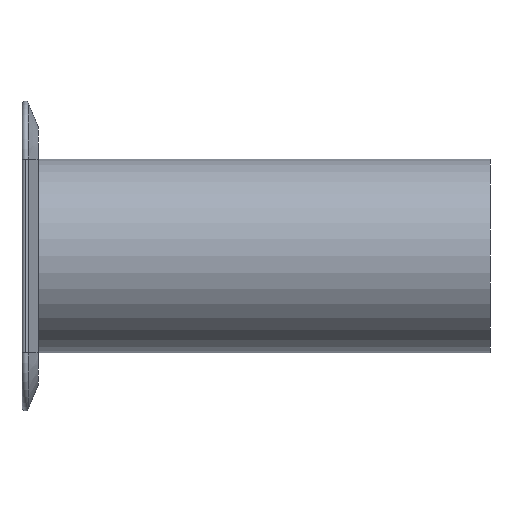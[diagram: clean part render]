
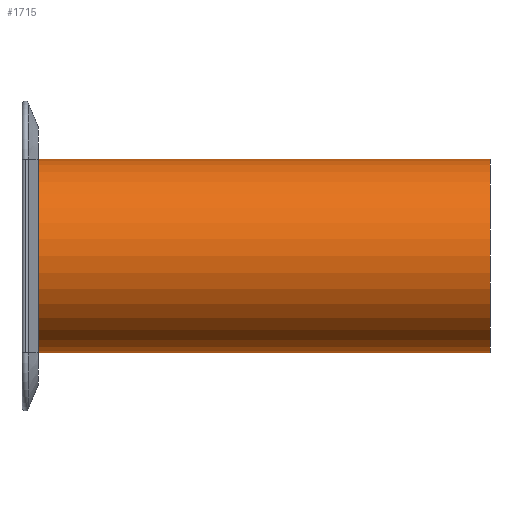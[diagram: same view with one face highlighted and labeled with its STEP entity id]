
A CAD part, left-side view. The second image highlights one B-rep face of the part: STEP entity #1715.
In plain terms, the highlighted cylindrical face has radius 15 mm (diameter 30 mm), a partial arc.
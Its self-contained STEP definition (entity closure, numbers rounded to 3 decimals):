
#88 = CIRCLE ( 'NONE', #2010, 15. ) ;
#138 = CARTESIAN_POINT ( 'NONE',  ( 0., 0., 0. ) ) ;
#155 = DIRECTION ( 'NONE',  ( 0., 1., 0. ) ) ;
#172 = CIRCLE ( 'NONE', #1311, 15. ) ;
#230 = CARTESIAN_POINT ( 'NONE',  ( 0., 0., -15. ) ) ;
#329 = ORIENTED_EDGE ( 'NONE', *, *, #1599, .T. ) ;
#370 = CARTESIAN_POINT ( 'NONE',  ( 0., 70., 0. ) ) ;
#387 = CYLINDRICAL_SURFACE ( 'NONE', #1115, 15. ) ;
#404 = CARTESIAN_POINT ( 'NONE',  ( 0., 70., 15. ) ) ;
#426 = EDGE_CURVE ( 'NONE', #970, #1158, #1423, .T. ) ;
#524 = DIRECTION ( 'NONE',  ( 0., 1., 0. ) ) ;
#587 = DIRECTION ( 'NONE',  ( 0., -1., 0. ) ) ;
#713 = CARTESIAN_POINT ( 'NONE',  ( 0., 70., -15. ) ) ;
#767 = CARTESIAN_POINT ( 'NONE',  ( 0., 0., 15. ) ) ;
#806 = CARTESIAN_POINT ( 'NONE',  ( 0., 70., 0. ) ) ;
#970 = VERTEX_POINT ( 'NONE', #404 ) ;
#976 = CARTESIAN_POINT ( 'NONE',  ( 0., 70., -15. ) ) ;
#1092 = ORIENTED_EDGE ( 'NONE', *, *, #1836, .F. ) ;
#1115 = AXIS2_PLACEMENT_3D ( 'NONE', #806, #587, #1941 ) ;
#1158 = VERTEX_POINT ( 'NONE', #767 ) ;
#1177 = EDGE_LOOP ( 'NONE', ( #1516, #1092, #1360, #329 ) ) ;
#1263 = VERTEX_POINT ( 'NONE', #230 ) ;
#1271 = DIRECTION ( 'NONE',  ( 0., 0., 1. ) ) ;
#1303 = VECTOR ( 'NONE', #1871, 1000. ) ;
#1311 = AXIS2_PLACEMENT_3D ( 'NONE', #370, #524, #1988 ) ;
#1347 = CARTESIAN_POINT ( 'NONE',  ( 0., 70., 15. ) ) ;
#1360 = ORIENTED_EDGE ( 'NONE', *, *, #1997, .T. ) ;
#1423 = LINE ( 'NONE', #1347, #1480 ) ;
#1430 = LINE ( 'NONE', #713, #1303 ) ;
#1480 = VECTOR ( 'NONE', #1833, 1000. ) ;
#1516 = ORIENTED_EDGE ( 'NONE', *, *, #426, .F. ) ;
#1599 = EDGE_CURVE ( 'NONE', #1263, #1158, #88, .T. ) ;
#1715 = ADVANCED_FACE ( 'NONE', ( #1978 ), #387, .T. ) ;
#1833 = DIRECTION ( 'NONE',  ( 0., -1., 0. ) ) ;
#1836 = EDGE_CURVE ( 'NONE', #1890, #970, #172, .T. ) ;
#1871 = DIRECTION ( 'NONE',  ( 0., -1., 0. ) ) ;
#1890 = VERTEX_POINT ( 'NONE', #976 ) ;
#1941 = DIRECTION ( 'NONE',  ( 0., 0., -1. ) ) ;
#1978 = FACE_OUTER_BOUND ( 'NONE', #1177, .T. ) ;
#1988 = DIRECTION ( 'NONE',  ( 0., 0., 1. ) ) ;
#1997 = EDGE_CURVE ( 'NONE', #1890, #1263, #1430, .T. ) ;
#2010 = AXIS2_PLACEMENT_3D ( 'NONE', #138, #155, #1271 ) ;
